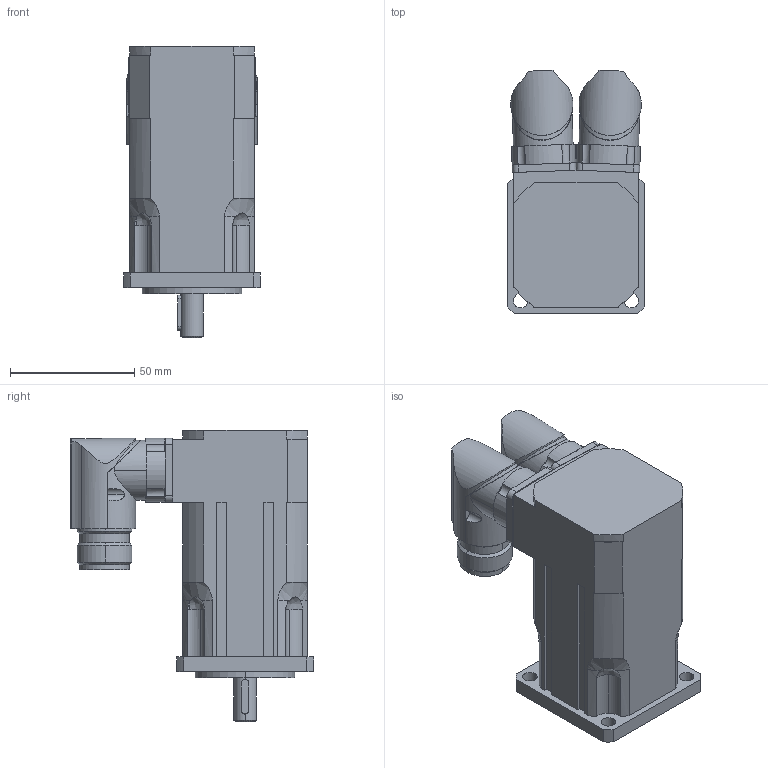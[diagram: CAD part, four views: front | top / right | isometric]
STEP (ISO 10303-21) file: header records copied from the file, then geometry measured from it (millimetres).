
FILE_DESCRIPTION(('STEP AP203'),'2;1');
FILE_NAME('MH2-0070.stp','2006-08-29T18:23:58',(''),(''),'2005.2.102','THINKDESIGN','');
FILE_SCHEMA(('CONFIG_CONTROL_DESIGN'));
Length unit declared in the file: millimetre
Bounding box: 55 x 97.7 x 117 mm (x, y, z)
Volume: 288725.8 mm3; surface area: 46782.1 mm2
Topology: 3 solids, 3 shells, 266 faces, 704 edges, 454 vertices
Faces by surface type: cylinder 120, plane 102, bspline 44
Entity records: 10039 total; most frequent: CARTESIAN_POINT 3358, ORIENTED_EDGE 1408, DIRECTION 1378, EDGE_CURVE 704, AXIS2_PLACEMENT_3D 528, VERTEX_POINT 454, VECTOR 322, LINE 322
